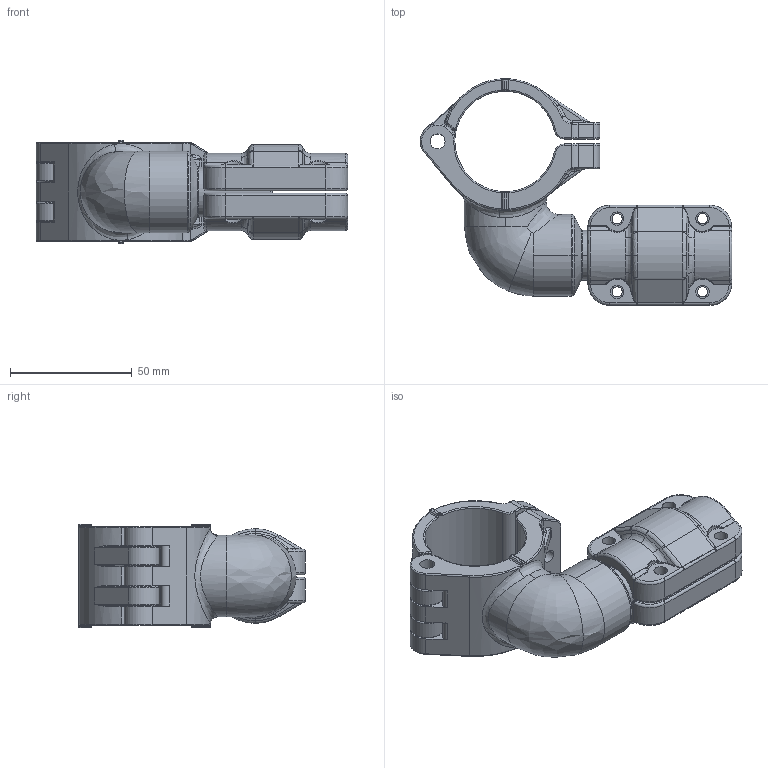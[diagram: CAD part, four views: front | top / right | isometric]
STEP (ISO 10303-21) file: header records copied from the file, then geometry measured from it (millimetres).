
FILE_DESCRIPTION((''),'2;1');
FILE_NAME('2015411099_ASM_7_ASM','2017-05-15T',('Administrator'),(''),'PRO/ENGINEER BY PARAMETRIC TECHNOLOGY CORPORATION, 2009360','PRO/ENGINEER BY PARAMETRIC TECHNOLOGY CORPORATION, 2009360','');
FILE_SCHEMA(('AUTOMOTIVE_DESIGN_CC2 { 1 2 10303 214 -1 1 5 2 }'));
Length unit declared in the file: millimetre
Products named in the file (8): PRT0001_1_1; PRT0002_1_1; 2015411000_ASM_3_ASM_1_ASM; 2015411000_ASM_ASM_1_ASM; 201510020000_38_1; 201510020001_10_1; 2015100200_ASM_1_ASM; 2015411099_ASM_7_ASM
Assembly tree (7 placements, depth 4):
  2015411099_ASM_7_ASM
    2015411000_ASM_ASM_1_ASM
      2015411000_ASM_3_ASM_1_ASM
        PRT0001_1_1
        PRT0002_1_1
    2015100200_ASM_1_ASM
      201510020000_38_1
      201510020001_10_1
Bounding box: 127.77 x 92.91 x 42.62 mm (x, y, z)
Volume: 119033.9 mm3; surface area: 47945.6 mm2
Topology: 4 solids, 10 shells, 714 faces, 1761 edges, 1034 vertices
Faces by surface type: cylinder 232, bspline 191, torus 162, plane 85, sphere 24, cone 20
Entity records: 36465 total; most frequent: CARTESIAN_POINT 15565, ORIENTED_EDGE 3450, DIRECTION 3134, EDGE_CURVE 1725, AXIS2_PLACEMENT_3D 1372, PRESENTATION_STYLE_ASSIGNMENT 1221, STYLED_ITEM 1221, VERTEX_POINT 1034
